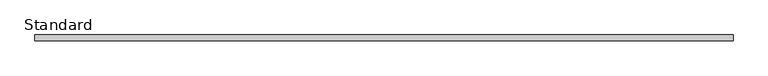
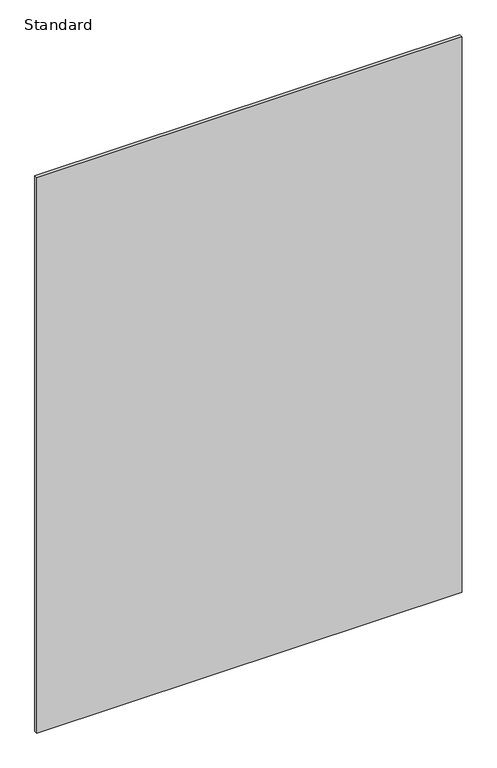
"""IFC4 building model written with IfcOpenShell, lengths in millimetres: furniture geometry, X_Partition-Compact Laminate-Duracube-Rectangular : Standard."""

from ifc_helpers import new_model, si_unit, frame, origin, place, context, project, spatial, polyline, outline, extrude, source, transform, mapped, element, save


def standard_48cda198(model_context):
    return source(origin(), model_context, "Body", "SweptSolid", [
        extrude(outline(polyline([(840.7003264, 0.0), (840.7003264, -13.0), (-751.2996736, -13.0), (-751.2996736, 0.0), (840.7003264, 0.0)])), frame((0.0, 0.0, 200.0), z_axis=(0.0, 0.0, 1.0), x_axis=(1.0, 0.0, 0.0)), (0.0, 0.0, 1.0), 2198.0),
    ])


if __name__ == "__main__":
    model = new_model("IFC4")
    model_context = context("Model", 3, world=origin())
    ifc_project = project(units=[si_unit("LENGTHUNIT", "METRE", prefix="MILLI")], contexts=[model_context])
    site = spatial("IfcSite", under=ifc_project)
    building = spatial("IfcBuilding", under=site)
    placement = place(None, origin())
    standard_shape = standard_48cda198(model_context)
    element("IfcFurniture", 1, ObjectType="X_Partition-Compact Laminate-Duracube-Rectangular : Standard", at=placement, inside=building, context=model_context, shape_type="MappedRepresentation", body=[
        mapped(standard_shape, transform((0.0, 0.0, 0.0), x_axis=(1.0, 0.0, 0.0), y_axis=(0.0, 1.0, 0.0), z_axis=(0.0, 0.0, 1.0))),
    ])
    save(model, "model.ifc")
